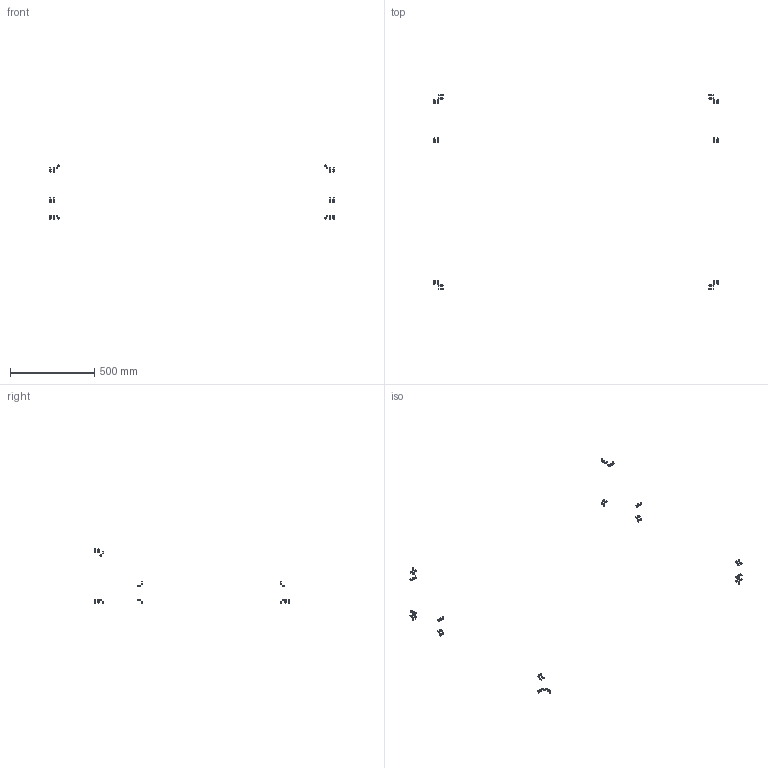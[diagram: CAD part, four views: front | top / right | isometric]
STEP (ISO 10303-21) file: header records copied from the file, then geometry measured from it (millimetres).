
FILE_DESCRIPTION(/* description */ (''),/* implementation_level */ '2;1');
FILE_NAME(/* name */ '1.frame-bottom#1.4#CB5-10',/* time_stamp */ '2014-12-01T20:11:03+01:00',/* author */ (''),/* organization */ (''),/* preprocessor_version */ 'ST-DEVELOPER v14',/* originating_system */ '',/* authorisation */ '');
FILE_SCHEMA (('AUTOMOTIVE_DESIGN'));
Length unit declared in the file: millimetre
Products named in the file (2): Document; screw DIN912-like, M5x10
Assembly tree (32 placements, depth 2):
  Document
    screw DIN912-like, M5x10  x32
Bounding box: 1688.5 x 1158.5 x 331 mm (x, y, z)
Volume: 29815.7 mm3; surface area: 28995.3 mm2
Topology: 68 solids, 68 shells, 1700 faces, 3808 edges, 2244 vertices
Faces by surface type: plane 1020, bspline 680
Entity records: 50469 total; most frequent: CARTESIAN_POINT 23271, B_SPLINE_CURVE_WITH_KNOTS 4662, ORIENTED_EDGE 3996, PCURVE 3996, DEFINITIONAL_REPRESENTATION 3996, SURFACE_CURVE 1998, EDGE_CURVE 1998, VERTEX_POINT 1221
